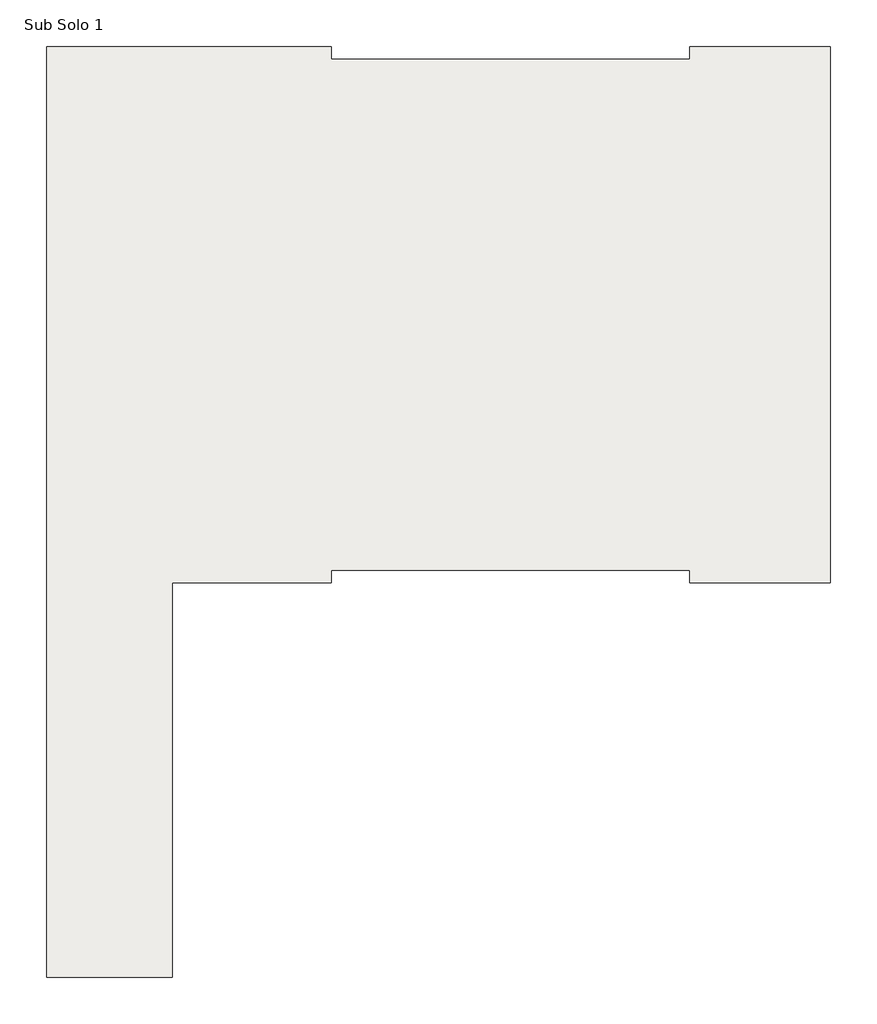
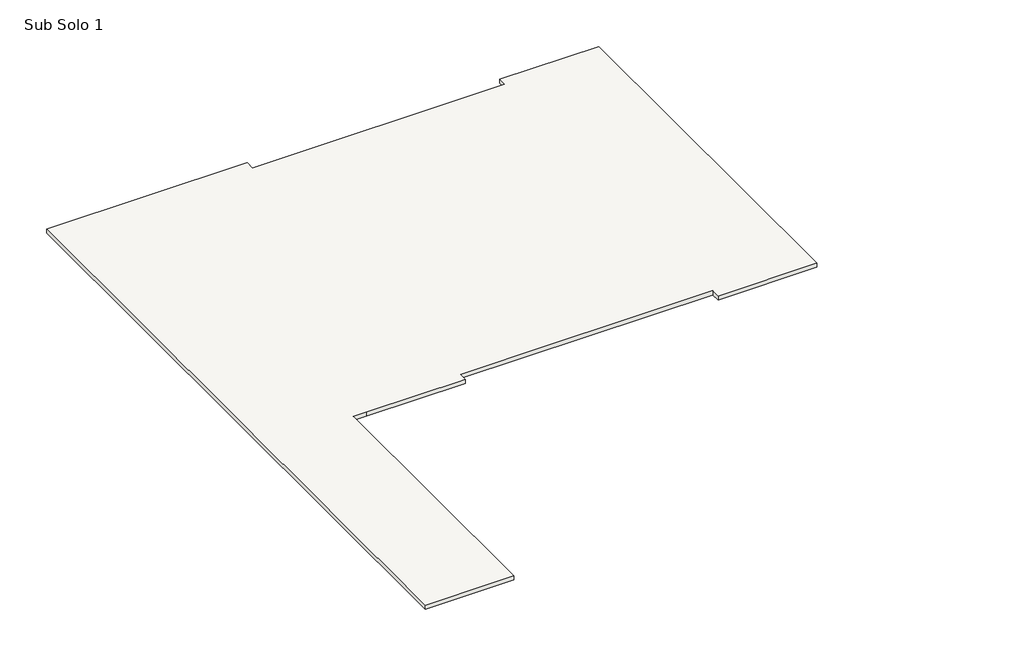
# One storey, incomplete: 1 slab.
"""IFC4 building model written with IfcOpenShell, lengths in millimetres."""

import ifcopenshell
import ifcopenshell.guid

model = None  # the IFC model being written
_history = None  # IfcOwnerHistory: only IFC2X3 demands one
_inside = {}  # id of a spatial element -> (the spatial element, [elements in it])
_under = {}  # id of a project, library or spatial element -> (it, [spatial elements below it])
_declared = {}  # id of a project -> (the project, [libraries it declares])
_typed = {}  # id of a type object -> (the type object, [elements of that type])
_made_of = {}  # id of a material, layer set ... -> (it, [elements and type objects made of it])


def new_model(schema):
    """Start an empty IFC model of exactly this schema.

    Asked for "IFC4X3", IfcOpenShell would pick the latest addendum, in which some entities
    have other attributes; the version numbers below select the first issue.
    IFC2X3 requires an IfcOwnerHistory on every rooted entity: one is made here for all.
    """
    global model, _history
    if schema == "IFC4X3":
        model = ifcopenshell.file(schema_version=(4, 3, 0, 0))
    else:
        model = ifcopenshell.file(schema=schema)
    _inside.clear()
    _under.clear()
    _declared.clear()
    _typed.clear()
    _made_of.clear()
    _history = None
    if model.schema == "IFC2X3":
        org = make("IfcOrganization", Name="unknown")
        user = make(
            "IfcPersonAndOrganization",
            ThePerson=make("IfcPerson", FamilyName="unknown"),
            TheOrganization=org,
        )
        app = make(
            "IfcApplication",
            ApplicationDeveloper=org,
            Version="unknown",
            ApplicationFullName="unknown",
            ApplicationIdentifier="unknown",
        )
        _history = make(
            "IfcOwnerHistory",
            OwningUser=user,
            OwningApplication=app,
            ChangeAction="ADDED",
            CreationDate=0,
        )
    return model


def make(cls, **values):
    """One entity of the class cls with the attributes given. An attribute that is None is left unset."""
    return model.create_entity(
        cls, **{name: value for name, value in values.items() if value is not None}
    )


def rooted(cls, **values):
    """An entity with a GlobalId (a new one), such as an element, a storey or a relation."""
    return make(cls, GlobalId=ifcopenshell.guid.new(), OwnerHistory=_history, **values)


def si_unit(unit_type, name, prefix=None):
    """IfcSIUnit, for example si_unit("LENGTHUNIT", "METRE", prefix="MILLI")."""
    return make("IfcSIUnit", UnitType=unit_type, Prefix=prefix, Name=name)


def assignment(units):
    """IfcUnitAssignment: the units of a project."""
    return None if units is None else make("IfcUnitAssignment", Units=units)


def point(xyz):
    """IfcCartesianPoint."""
    return None if xyz is None else make("IfcCartesianPoint", Coordinates=xyz)


def direction(xyz):
    """IfcDirection."""
    return None if xyz is None else make("IfcDirection", DirectionRatios=xyz)


def frame(location, z_axis=None, x_axis=None):
    """IfcAxis2Placement3D, a coordinate frame: its origin and axes. An axis left out is left unset."""
    return make(
        "IfcAxis2Placement3D",
        Location=point(location),
        Axis=direction(z_axis),
        RefDirection=direction(x_axis),
    )


def origin():
    """The frame at (0, 0, 0) with its axes left unset."""
    return frame((0.0, 0.0, 0.0))


def place(relative_to, where):
    """IfcLocalPlacement: puts the frame where relative to a parent placement (None: the world)."""
    return make(
        "IfcLocalPlacement", PlacementRelTo=relative_to, RelativePlacement=where
    )


def context(
    kind, dimensions, precision=None, world=None, true_north=None, identifier=None
):
    """IfcGeometricRepresentationContext, for example the 3D "Model" context."""
    return make(
        "IfcGeometricRepresentationContext",
        ContextIdentifier=identifier,
        ContextType=kind,
        CoordinateSpaceDimension=dimensions,
        Precision=precision,
        WorldCoordinateSystem=world,
        TrueNorth=true_north,
    )


def project(units=None, contexts=None):
    """IfcProject with its units and contexts."""
    return rooted(
        "IfcProject",
        Name="project",
        RepresentationContexts=contexts,
        UnitsInContext=assignment(units),
    )


def spatial(cls, under=None, at=None, **own):
    """A site, building, storey or space (cls), placed at a placement, below another one or the project."""
    s = rooted(cls, ObjectPlacement=at, **own)
    if under is not None:
        _under.setdefault(under.id(), (under, []))[1].append(s)
    return s


def polyline(points):
    """IfcPolyline through the points."""
    return make("IfcPolyline", Points=[point(p) for p in points])


def outline(outer, holes=None, kind="AREA"):
    """IfcArbitraryClosedProfileDef: a profile drawn as a closed curve; with holes, ...WithVoids."""
    if holes is None:
        return make("IfcArbitraryClosedProfileDef", ProfileType=kind, OuterCurve=outer)
    return make(
        "IfcArbitraryProfileDefWithVoids",
        ProfileType=kind,
        OuterCurve=outer,
        InnerCurves=holes,
    )


def extrude(swept, where, along, depth):
    """IfcExtrudedAreaSolid: the profile swept, set in the frame where, extruded along a direction by depth."""
    return make(
        "IfcExtrudedAreaSolid",
        SweptArea=swept,
        Position=where,
        ExtrudedDirection=direction(along),
        Depth=depth,
    )


def shape(context_of_items, identifier, shape_type, items):
    """IfcShapeRepresentation: the items that make up one representation, for example the "Body"."""
    return make(
        "IfcShapeRepresentation",
        ContextOfItems=context_of_items,
        RepresentationIdentifier=identifier,
        RepresentationType=shape_type,
        Items=items,
    )


def made_of(thing, what):
    """Note that an element or type object is made of a material, layer set ...; save() writes the relation."""
    if what is not None:
        _made_of.setdefault(what.id(), (what, []))[1].append(thing)
    return thing


def element(
    cls,
    number,
    at=None,
    inside=None,
    cuts=None,
    type_object=None,
    material=None,
    context=None,
    identifier="Body",
    shape_type=None,
    held_by="IfcProductDefinitionShape",
    body=None,
    shapes=None,
    **own,
):
    """One element of the class cls, such as IfcWall. Its Tag is "e" and its number.

    at: its placement. inside: the storey or other place that contains it. cuts: it is an
    opening in that element (IfcRelVoidsElement). A single representation is given by context,
    identifier, shape_type and body (its items); several are given by shapes. held_by: the class
    of the entity that holds the representations. save() writes the other relations.
    """
    e = rooted(cls, Tag="e%d" % number, ObjectPlacement=at, **own)
    if body is not None:
        shapes = [shape(context, identifier, shape_type, body)]
    if shapes is not None:
        e.Representation = make(held_by, Representations=shapes)
    if inside is not None:
        _inside.setdefault(inside.id(), (inside, []))[1].append(e)
    if cuts is not None:
        rooted(
            "IfcRelVoidsElement", RelatingBuildingElement=cuts, RelatedOpeningElement=e
        )
    if type_object is not None:
        _typed.setdefault(type_object.id(), (type_object, []))[1].append(e)
    return made_of(e, material)


def aggregate(whole, parts):
    """IfcRelAggregates: a whole, such as a stair, and the parts it consists of."""
    return rooted("IfcRelAggregates", RelatingObject=whole, RelatedObjects=parts)


def save(model, path):
    """Write the relations noted so far, then the file.

    IfcRelAggregates (storeys below a building ...), IfcRelContainedInSpatialStructure (elements
    in a storey), IfcRelDefinesByType, IfcRelAssociatesMaterial and IfcRelDeclares: one each for
    every whole, place, type object, material and project.
    """
    for whole, parts in _under.values():
        aggregate(whole, parts)
    for where, things in _inside.values():
        rooted(
            "IfcRelContainedInSpatialStructure",
            RelatedElements=things,
            RelatingStructure=where,
        )
    for kind, things in _typed.values():
        rooted("IfcRelDefinesByType", RelatedObjects=things, RelatingType=kind)
    for what, things in _made_of.values():
        rooted("IfcRelAssociatesMaterial", RelatedObjects=things, RelatingMaterial=what)
    for by, libraries in _declared.values():
        rooted("IfcRelDeclares", RelatingContext=by, RelatedDefinitions=libraries)
    model.write(path)


model = new_model("IFC4")

# Units and contexts
model_context = context("Model", 3, world=origin())
ifc_project = project(units=[si_unit("LENGTHUNIT", "METRE", prefix="MILLI")], contexts=[model_context])

# Site, building, storey
site = spatial("IfcSite", under=ifc_project)
building = spatial("IfcBuilding", under=site)
storey = spatial("IfcBuildingStorey", under=building, Name="Sub Solo 1", Elevation=-3000.0)

# Slab
placement = place(None, origin())
element("IfcSlab", 1, ObjectType="Pad 1", at=placement, inside=storey, context=model_context, shape_type="SweptSolid", body=[
    extrude(outline(polyline([(-24317.9141262, -32494.7400989), (-24317.9141262, 14233.6614625), (-10026.2265742, 14233.6614625), (-10026.2265742, 13603.6614625), (7973.7734258, 13603.6614625), (7973.7734258, 14233.6614625), (15013.7734258, 14233.6614625), (15013.7734258, -12686.3385375), (7973.7734258, -12686.3385375), (7973.7734258, -12056.3385375), (-10026.2265742, -12056.3385375), (-10026.2265742, -12686.3385375), (-17066.2265742, -12686.3385375), (-18017.9141262, -12686.3385375), (-18017.9141262, -32494.7400989), (-24317.9141262, -32494.7400989)])), frame((0.0, 0.0, -3304.8), z_axis=(0.0, 0.0, 1.0), x_axis=(1.0, 0.0, 0.0)), (0.0, 0.0, 1.0), 304.8),
])

save(model, "model.ifc")
